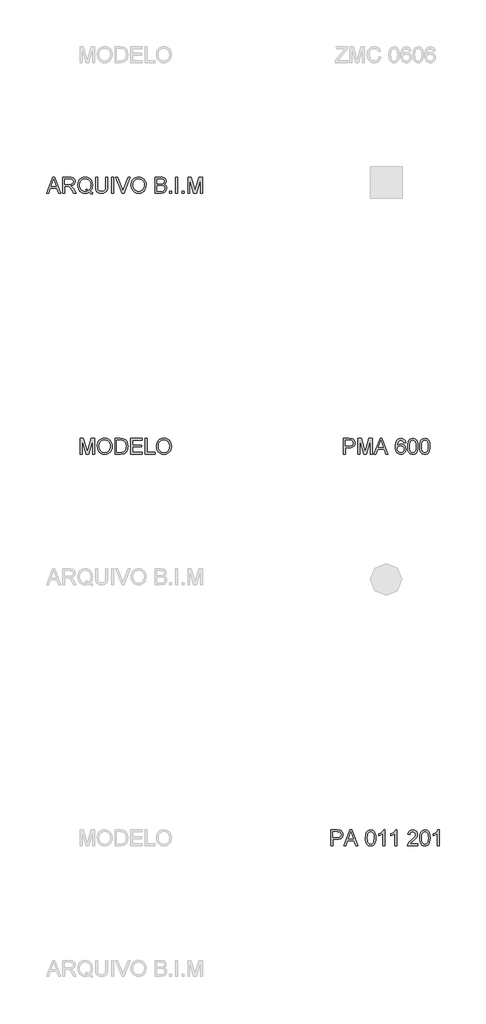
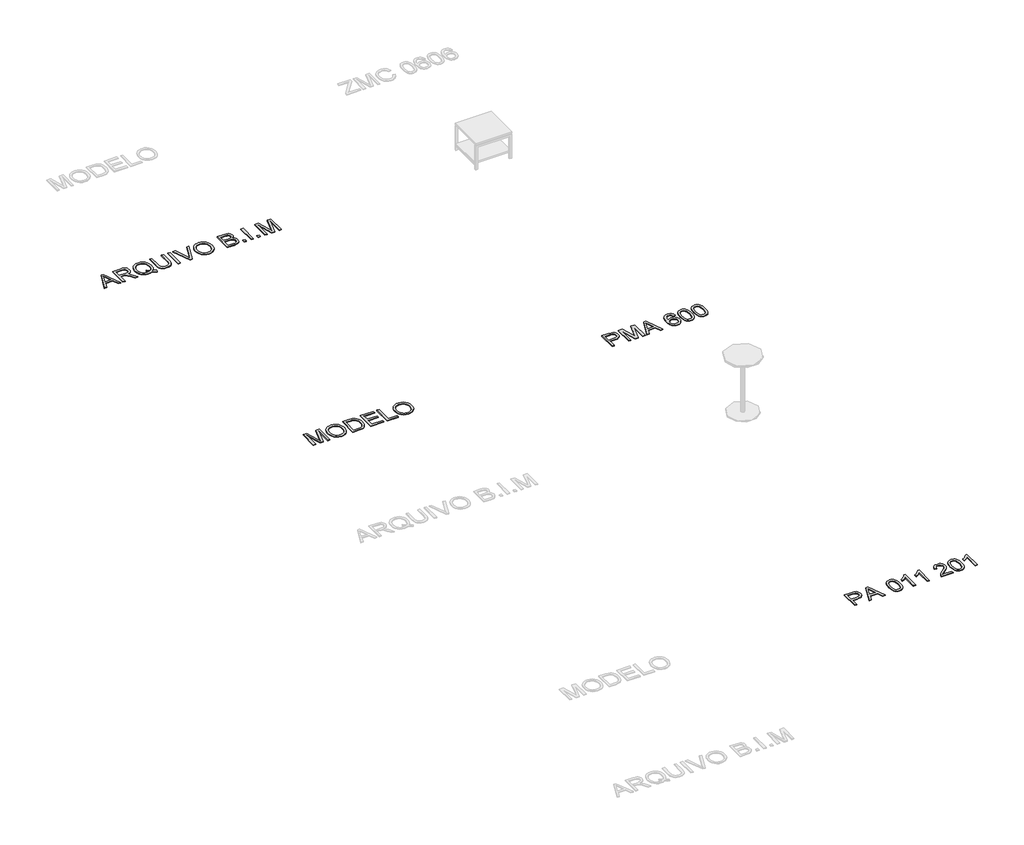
# One storey, part 2 of 5: 4 proxies.
"""IFC4 building model written with IfcOpenShell, lengths in millimetres."""

from ifc_helpers import new_model, si_unit, origin, origin_with_axes, place, context, project, spatial, polyline, outline, extrude, element, save

model = new_model("IFC4")

# Units and contexts
model_context = context("Model", 3, world=origin())
ifc_project = project(units=[si_unit("LENGTHUNIT", "METRE", prefix="MILLI")], contexts=[model_context])

# Site, building, storey
site = spatial("IfcSite", under=ifc_project)
building = spatial("IfcBuilding", under=site)
storey = spatial("IfcBuildingStorey", under=building, Name="Marelli - Linha PERFECTA - Planta Baixa", Elevation=0.0)

# Proxies
placement = place(None, origin())
element("IfcBuildingElementProxy", 1, Name="300mm Arial", ObjectType="300mm Arial", at=placement, inside=storey, context=model_context, shape_type="SweptSolid", body=[
    extrude(outline(polyline([(-4919.7880098, 8719.4336799), (-4919.7880098, 9020.8026104), (-4808.0990361, 9020.8026104), (-4763.0702799, 9017.9331308), (-4742.99312, 9012.5712507), (-4726.4660214, 9003.8432504), (-4713.1578902, 8991.3536567), (-4702.7376327, 8974.7069964), (-4696.0053922, 8955.0712949), (-4693.761312, 8933.6145775), (-4695.276526, 8915.1147117), (-4699.8221679, 8898.0955709), (-4707.3982377, 8882.5571551), (-4718.0047355, 8868.4994644), (-4732.5659647, 8856.8468022), (-4752.0062289, 8848.523472), (-4776.325528, 8843.529474), (-4805.5238621, 8841.8648079), (-4882.1168935, 8841.8648079), (-4882.1168935, 8719.4336799), (-4919.7880098, 8719.4336799)]), holes=[polyline([(-4882.1168935, 8879.5359242), (-4803.3165702, 8879.5359242), (-4769.912885, 8882.994015), (-4747.8399653, 8893.3682873), (-4735.5343125, 8910.0149475), (-4731.4324283, 8932.2902023), (-4733.8512524, 8949.2127741), (-4741.1077248, 8963.4865955), (-4752.3005345, 8974.2287498), (-4766.5283706, 8980.5563201), (-4804.1994869, 8983.1314941), (-4882.1168935, 8983.1314941), (-4882.1168935, 8879.5359242)])]), origin_with_axes(), (0.0, 0.0, 1.0), 10.0),
    extrude(outline(polyline([(-4641.9635271, 8719.4336799), (-4641.9635271, 9020.8026104), (-4577.1427195, 9020.8026104), (-4515.4856971, 8808.3875464), (-4503.0512857, 8764.0209777), (-4489.5868047, 8812.0663663), (-4428.9598519, 9020.8026104), (-4364.1390443, 9020.8026104), (-4364.1390443, 8719.4336799), (-4401.8101606, 8719.4336799), (-4401.8101606, 8983.1314941), (-4477.5202752, 8719.4336799), (-4528.5822962, 8719.4336799), (-4604.2924108, 8983.1314941), (-4604.2924108, 8719.4336799), (-4641.9635271, 8719.4336799)])), origin_with_axes(), (0.0, 0.0, 1.0), 10.0),
    extrude(outline(polyline([(-4333.3105331, 8719.4336799), (-4213.0131207, 9020.8026104), (-4180.9338107, 9020.8026104), (-4060.6363983, 8719.4336799), (-4100.4412302, 8719.4336799), (-4134.9485613, 8813.6114707), (-4259.0719465, 8813.6114707), (-4293.5057012, 8719.4336799), (-4333.3105331, 8719.4336799)]), holes=[polyline([(-4245.2395835, 8851.282587), (-4148.7073479, 8851.282587), (-4175.8570392, 8925.3740208), (-4196.9734657, 8983.1314941), (-4215.7354475, 8931.8487439), (-4245.2395835, 8851.282587)])]), origin_with_axes(), (0.0, 0.0, 1.0), 10.0),
    extrude(outline(polyline([(-3723.7300671, 8940.7514882), (-3761.4011834, 8936.0425987), (-3767.4712363, 8954.7126099), (-3775.6750048, 8967.4597211), (-3792.7631235, 8979.2135508), (-3813.4196975, 8983.1314941), (-3830.9308805, 8980.8506257), (-3847.4119939, 8974.0080206), (-3861.5662537, 8959.5962434), (-3873.1269454, 8939.7582068), (-3880.9352407, 8911.6980077), (-3883.8323114, 8872.6197427), (-3868.7215585, 8890.2504873), (-3850.6125672, 8902.6757017), (-3830.5170133, 8910.0425387), (-3809.446572, 8912.498151), (-3791.3467778, 8910.8196894), (-3774.6449352, 8905.7843046), (-3759.3410442, 8897.3919966), (-3745.4351048, 8885.6427654), (-3733.8790117, 8871.2355867), (-3725.6246594, 8854.8694365), (-3720.672048, 8836.5443146), (-3719.0211776, 8816.2602211), (-3722.1297804, 8789.2852738), (-3731.455589, 8764.2784951), (-3746.2260511, 8743.0700981), (-3765.6686146, 8727.4902956), (-3788.9003626, 8717.9161667), (-3815.0383783, 8714.7247904), (-3837.4952749, 8716.8401119), (-3857.7770691, 8723.1860763), (-3875.8837611, 8733.7626836), (-3891.8153507, 8748.5699339), (-3904.8038844, 8768.2332266), (-3914.0814085, 8793.377961), (-3919.6479229, 8824.0041371), (-3921.5034277, 8860.1117549), (-3919.4432885, 8900.5925699), (-3913.262871, 8935.1412878), (-3902.9621752, 8963.7579085), (-3888.541201, 8986.442432), (-3872.9108147, 9001.4750101), (-3854.7880279, 9012.2125658), (-3834.1728406, 9018.6550992), (-3811.0652528, 9020.8026104), (-3778.0110555, 9015.4867156), (-3751.5419459, 8999.5390311), (-3733.0006934, 8974.2103557), (-3723.7300671, 8940.7514882)]), holes=[polyline([(-3883.8323114, 8816.8488323), (-3881.6526106, 8800.1561867), (-3875.1135081, 8784.2176993), (-3864.9599651, 8770.514095), (-3851.9369424, 8760.5260988), (-3836.2191842, 8754.4284547), (-3817.9814343, 8752.3959067), (-3793.1218085, 8756.6081555), (-3773.5780775, 8769.2449021), (-3760.9137398, 8789.1105298), (-3756.6922939, 8815.0094223), (-3760.8585575, 8839.8690481), (-3773.3573483, 8858.8241679), (-3793.232173, 8870.826318), (-3819.5265387, 8874.8270347), (-3844.3493763, 8870.826318), (-3865.1071179, 8858.8241679), (-3879.151013, 8840.3289006), (-3883.8323114, 8816.8488323)])]), origin_with_axes(), (0.0, 0.0, 1.0), 10.0),
    extrude(outline(polyline([(-3686.0589508, 8867.690124), (-3683.2906388, 8915.9286506), (-3674.9857028, 8954.3999103), (-3661.2269161, 8983.6925141), (-3642.0970524, 9004.3950734), (-3617.4581558, 9016.7007261), (-3587.1722705, 9020.8026104), (-3563.9589166, 9018.3745892), (-3543.1735839, 9011.0905257), (-3525.7911596, 8999.2355284), (-3512.7865311, 8983.0947059), (-3502.9640818, 8962.8060138), (-3495.1281953, 8938.5074081), (-3489.9962415, 8907.6513057), (-3488.2855902, 8867.690124), (-3491.0263111, 8819.7275089), (-3499.2484737, 8781.3482197), (-3512.9244868, 8752.0280247), (-3532.0267594, 8731.242692), (-3556.7208384, 8718.8542658), (-3587.1722705, 8714.7247904), (-3607.920815, 8716.5182151), (-3626.3149148, 8721.8984893), (-3642.3545698, 8730.8656129), (-3656.03978, 8743.419586), (-3669.1731672, 8766.1133066), (-3678.5541581, 8794.3896364), (-3684.1827526, 8828.2485756), (-3686.0589508, 8867.690124)]), holes=[polyline([(-3648.3878345, 8867.7637004), (-3643.9732506, 8808.507108), (-3638.4550206, 8788.2391093), (-3630.7294987, 8774.211309), (-3611.0110238, 8757.8497573), (-3587.1722705, 8752.3959067), (-3563.3335172, 8757.8681514), (-3543.6150423, 8774.2848854), (-3535.8895204, 8788.3356784), (-3530.3712904, 8808.5990785), (-3525.9567065, 8867.7637004), (-3530.2241376, 8925.6867205), (-3535.5584266, 8945.8880406), (-3543.0264311, 8960.249234), (-3562.7081178, 8977.410929), (-3587.6137289, 8983.1314941), (-3611.1949648, 8978.0915107), (-3630.1408875, 8962.9715607), (-3638.1239268, 8947.3365759), (-3643.8260978, 8926.2569376), (-3648.3878345, 8867.7637004)])]), origin_with_axes(), (0.0, 0.0, 1.0), 10.0),
    extrude(outline(polyline([(-3455.3233634, 8867.690124), (-3452.5550514, 8915.9286506), (-3444.2501154, 8954.3999103), (-3430.4913288, 8983.6925141), (-3411.361465, 9004.3950734), (-3386.7225684, 9016.7007261), (-3356.4366831, 9020.8026104), (-3333.2233292, 9018.3745892), (-3312.4379965, 9011.0905257), (-3295.0555722, 8999.2355284), (-3282.0509437, 8983.0947059), (-3272.2284944, 8962.8060138), (-3264.3926079, 8938.5074081), (-3259.2606541, 8907.6513057), (-3257.5500028, 8867.690124), (-3260.2907237, 8819.7275089), (-3268.5128863, 8781.3482197), (-3282.1888994, 8752.0280247), (-3301.291172, 8731.242692), (-3325.985251, 8718.8542658), (-3356.4366831, 8714.7247904), (-3377.1852277, 8716.5182151), (-3395.5793274, 8721.8984893), (-3411.6189824, 8730.8656129), (-3425.3041926, 8743.419586), (-3438.4375799, 8766.1133066), (-3447.8185707, 8794.3896364), (-3453.4471653, 8828.2485756), (-3455.3233634, 8867.690124)]), holes=[polyline([(-3417.6522471, 8867.7637004), (-3413.2376632, 8808.507108), (-3407.7194333, 8788.2391093), (-3399.9939114, 8774.211309), (-3380.2754364, 8757.8497573), (-3356.4366831, 8752.3959067), (-3332.5979298, 8757.8681514), (-3312.8794549, 8774.2848854), (-3305.153933, 8788.3356784), (-3299.6357031, 8808.5990785), (-3295.2211191, 8867.7637004), (-3299.4885503, 8925.6867205), (-3304.8228392, 8945.8880406), (-3312.2908437, 8960.249234), (-3331.9725304, 8977.410929), (-3356.8781415, 8983.1314941), (-3380.4593774, 8978.0915107), (-3399.4053002, 8962.9715607), (-3407.3883395, 8947.3365759), (-3413.0905104, 8926.2569376), (-3417.6522471, 8867.7637004)])]), origin_with_axes(), (0.0, 0.0, 1.0), 10.0),
])
element("IfcBuildingElementProxy", 2, Name="300mm Arial", ObjectType="300mm Arial", at=placement, inside=storey, context=model_context, shape_type="SweptSolid", body=[
    extrude(outline(polyline([(-5152.878042, 1219.4336799), (-5152.878042, 1520.8026104), (-5041.1890682, 1520.8026104), (-4996.160312, 1517.9331308), (-4976.0831521, 1512.5712507), (-4959.5560535, 1503.8432504), (-4946.2479223, 1491.3536567), (-4935.8276648, 1474.7069964), (-4929.0954243, 1455.0712949), (-4926.8513441, 1433.6145775), (-4928.3665581, 1415.1147117), (-4932.9122, 1398.0955709), (-4940.4882698, 1382.5571551), (-4951.0947676, 1368.4994644), (-4965.6559968, 1356.8468022), (-4985.096261, 1348.523472), (-5009.4155602, 1343.529474), (-5038.6138943, 1341.8648079), (-5115.2069257, 1341.8648079), (-5115.2069257, 1219.4336799), (-5152.878042, 1219.4336799)]), holes=[polyline([(-5115.2069257, 1379.5359242), (-5036.4066023, 1379.5359242), (-5003.0029171, 1382.994015), (-4980.9299974, 1393.3682873), (-4968.6243447, 1410.0149475), (-4964.5224604, 1432.2902023), (-4966.9412846, 1449.2127741), (-4974.1977569, 1463.4865955), (-4985.3905666, 1474.2287498), (-4999.6184028, 1480.5563201), (-5037.2895191, 1483.1314941), (-5115.2069257, 1483.1314941), (-5115.2069257, 1379.5359242)])]), origin_with_axes(), (0.0, 0.0, 1.0), 10.0),
    extrude(outline(polyline([(-4910.1495016, 1219.4336799), (-4789.8520891, 1520.8026104), (-4757.7727792, 1520.8026104), (-4637.4753667, 1219.4336799), (-4677.2801986, 1219.4336799), (-4711.7875298, 1313.6114707), (-4835.9109149, 1313.6114707), (-4870.3446697, 1219.4336799), (-4910.1495016, 1219.4336799)]), holes=[polyline([(-4822.0785519, 1351.282587), (-4725.5463164, 1351.282587), (-4752.6960076, 1425.3740208), (-4773.8124341, 1483.1314941), (-4792.5744159, 1431.8487439), (-4822.0785519, 1351.282587)])]), origin_with_axes(), (0.0, 0.0, 1.0), 10.0),
    extrude(outline(polyline([(-4493.6335066, 1367.690124), (-4490.8651946, 1415.9286506), (-4482.5602586, 1454.3999103), (-4468.8014719, 1483.6925141), (-4449.6716082, 1504.3950734), (-4425.0327116, 1516.7007261), (-4394.7468263, 1520.8026104), (-4371.5334724, 1518.3745892), (-4350.7481397, 1511.0905257), (-4333.3657154, 1499.2355284), (-4320.3610869, 1483.0947059), (-4310.5386376, 1462.8060138), (-4302.7027511, 1438.5074081), (-4297.5707973, 1407.6513057), (-4295.860146, 1367.690124), (-4298.6008669, 1319.7275089), (-4306.8230295, 1281.3482197), (-4320.4990426, 1252.0280247), (-4339.6013152, 1231.242692), (-4364.2953942, 1218.8542658), (-4394.7468263, 1214.7247904), (-4415.4953708, 1216.5182151), (-4433.8894706, 1221.8984893), (-4449.9291256, 1230.8656129), (-4463.6143358, 1243.419586), (-4476.747723, 1266.1133066), (-4486.1287139, 1294.3896364), (-4491.7573084, 1328.2485756), (-4493.6335066, 1367.690124)]), holes=[polyline([(-4455.9623903, 1367.7637004), (-4451.5478064, 1308.507108), (-4446.0295764, 1288.2391093), (-4438.3040545, 1274.211309), (-4418.5855796, 1257.8497573), (-4394.7468263, 1252.3959067), (-4370.908073, 1257.8681514), (-4351.1895981, 1274.2848854), (-4343.4640762, 1288.3356784), (-4337.9458463, 1308.5990785), (-4333.5312623, 1367.7637004), (-4337.7986935, 1425.6867205), (-4343.1329824, 1445.8880406), (-4350.6009869, 1460.249234), (-4370.2826736, 1477.410929), (-4395.1882847, 1483.1314941), (-4418.7695206, 1478.0915107), (-4437.7154434, 1462.9715607), (-4445.6984826, 1447.3365759), (-4451.4006536, 1426.2569376), (-4455.9623903, 1367.7637004)])]), origin_with_axes(), (0.0, 0.0, 1.0), 10.0),
    extrude(outline(polyline([(-4121.6312331, 1219.4336799), (-4159.3023494, 1219.4336799), (-4159.3023494, 1454.2895457), (-4194.9869029, 1428.8688998), (-4234.644582, 1409.8494006), (-4234.644582, 1445.4603778), (-4205.0576726, 1461.5552151), (-4179.4254945, 1480.7034729), (-4159.219576, 1501.0657413), (-4145.9114448, 1520.8026104), (-4121.6312331, 1520.8026104), (-4121.6312331, 1219.4336799)])), origin_with_axes(), (0.0, 0.0, 1.0), 10.0),
    extrude(outline(polyline([(-3890.8956457, 1219.4336799), (-3928.566762, 1219.4336799), (-3928.566762, 1454.2895457), (-3964.2513156, 1428.8688998), (-4003.9089946, 1409.8494006), (-4003.9089946, 1445.4603778), (-3974.3220852, 1461.5552151), (-3948.6899072, 1480.7034729), (-3928.4839886, 1501.0657413), (-3915.1758574, 1520.8026104), (-3890.8956457, 1520.8026104), (-3890.8956457, 1219.4336799)])), origin_with_axes(), (0.0, 0.0, 1.0), 10.0),
    extrude(outline(polyline([(-3490.640035, 1257.1047962), (-3490.640035, 1219.4336799), (-3688.4133956, 1219.4336799), (-3684.3666936, 1245.4061488), (-3675.0776732, 1265.7040379), (-3661.4844335, 1285.3949217), (-3641.8211409, 1306.0055104), (-3614.3219617, 1329.0625145), (-3573.6710013, 1365.1701323), (-3549.280425, 1391.8231829), (-3537.0851369, 1413.4546442), (-3533.0200408, 1434.4974943), (-3536.8552106, 1453.3606436), (-3548.36072, 1469.0416137), (-3566.0466469, 1479.609024), (-3588.4230693, 1483.1314941), (-3611.9215317, 1479.6917974), (-3630.1776757, 1469.3727075), (-3641.9590966, 1452.9835646), (-3646.0333897, 1431.3337092), (-3683.704506, 1436.0425987), (-3674.5718355, 1472.4813103), (-3666.0254769, 1487.0172476), (-3654.8257694, 1499.0975727), (-3641.2302304, 1508.5935267), (-3625.4963773, 1515.376351), (-3587.6137289, 1520.8026104), (-3567.4239051, 1519.2942942), (-3549.4551689, 1514.7693457), (-3533.7075203, 1507.2277648), (-3520.1809592, 1496.6695515), (-3509.316944, 1483.8764551), (-3501.5569332, 1469.6302249), (-3496.9009267, 1453.9308607), (-3495.3489245, 1436.7783627), (-3497.0227876, 1418.761342), (-3502.0443768, 1401.057021), (-3510.9563182, 1383.0491973), (-3524.3012375, 1364.1216686), (-3545.5740139, 1341.5245171), (-3578.2695262, 1312.5078247), (-3621.6060252, 1276.2714482), (-3638.6021734, 1257.1047962), (-3490.640035, 1257.1047962)])), origin_with_axes(), (0.0, 0.0, 1.0), 10.0),
    extrude(outline(polyline([(-3452.9689187, 1367.690124), (-3450.2006066, 1415.9286506), (-3441.8956706, 1454.3999103), (-3428.136884, 1483.6925141), (-3409.0070202, 1504.3950734), (-3384.3681236, 1516.7007261), (-3354.0822384, 1520.8026104), (-3330.8688845, 1518.3745892), (-3310.0835517, 1511.0905257), (-3292.7011275, 1499.2355284), (-3279.6964989, 1483.0947059), (-3269.8740497, 1462.8060138), (-3262.0381632, 1438.5074081), (-3256.9062093, 1407.6513057), (-3255.1955581, 1367.690124), (-3257.9362789, 1319.7275089), (-3266.1584415, 1281.3482197), (-3279.8344547, 1252.0280247), (-3298.9367273, 1231.242692), (-3323.6308062, 1218.8542658), (-3354.0822384, 1214.7247904), (-3374.8307829, 1216.5182151), (-3393.2248826, 1221.8984893), (-3409.2645376, 1230.8656129), (-3422.9497479, 1243.419586), (-3436.0831351, 1266.1133066), (-3445.464126, 1294.3896364), (-3451.0927205, 1328.2485756), (-3452.9689187, 1367.690124)]), holes=[polyline([(-3415.2978024, 1367.7637004), (-3410.8832184, 1308.507108), (-3405.3649885, 1288.2391093), (-3397.6394666, 1274.211309), (-3377.9209916, 1257.8497573), (-3354.0822384, 1252.3959067), (-3330.2434851, 1257.8681514), (-3310.5250101, 1274.2848854), (-3302.7994882, 1288.3356784), (-3297.2812583, 1308.5990785), (-3292.8666744, 1367.7637004), (-3297.1341055, 1425.6867205), (-3302.4683944, 1445.8880406), (-3309.9363989, 1460.249234), (-3329.6180857, 1477.410929), (-3354.5236968, 1483.1314941), (-3378.1049326, 1478.0915107), (-3397.0508554, 1462.9715607), (-3405.0338947, 1447.3365759), (-3410.7360656, 1426.2569376), (-3415.2978024, 1367.7637004)])]), origin_with_axes(), (0.0, 0.0, 1.0), 10.0),
    extrude(outline(polyline([(-3080.9666451, 1219.4336799), (-3118.6377614, 1219.4336799), (-3118.6377614, 1454.2895457), (-3154.322315, 1428.8688998), (-3193.9799941, 1409.8494006), (-3193.9799941, 1445.4603778), (-3164.3930846, 1461.5552151), (-3138.7609066, 1480.7034729), (-3118.554988, 1501.0657413), (-3105.2468568, 1520.8026104), (-3080.9666451, 1520.8026104), (-3080.9666451, 1219.4336799)])), origin_with_axes(), (0.0, 0.0, 1.0), 10.0),
])
element("IfcBuildingElementProxy", 3, Name="300mm Arial", ObjectType="300mm Arial", at=placement, inside=storey, context=model_context, shape_type="SweptSolid", body=[
    extrude(outline(polyline([(-10609.419598, 13719.4336799), (-10489.1221856, 14020.8026104), (-10457.0428756, 14020.8026104), (-10336.7454632, 13719.4336799), (-10376.550295, 13719.4336799), (-10411.0576262, 13813.6114707), (-10535.1810114, 13813.6114707), (-10569.6147661, 13719.4336799), (-10609.419598, 13719.4336799)]), holes=[polyline([(-10521.3486483, 13851.282587), (-10424.8164128, 13851.282587), (-10451.9661041, 13925.3740208), (-10473.0825306, 13983.1314941), (-10491.8445123, 13931.8487439), (-10521.3486483, 13851.282587)])]), origin_with_axes(), (0.0, 0.0, 1.0), 10.0),
    extrude(outline(polyline([(-10296.4991729, 13719.4336799), (-10296.4991729, 14020.8026104), (-10166.6368286, 14020.8026104), (-10131.7340243, 14018.7700624), (-10106.3409696, 14012.6724183), (-10087.7813229, 14001.4152292), (-10073.3787428, 13983.9040463), (-10064.1357077, 13962.1898115), (-10061.054696, 13938.3234671), (-10066.1590587, 13908.6353901), (-10081.4721467, 13884.0240846), (-10093.0719259, 13873.9947017), (-10107.4538126, 13865.9794727), (-10144.5639089, 13855.9914765), (-10123.1531768, 13839.8782452), (-10092.6189712, 13801.1034829), (-10042.3662906, 13719.4336799), (-10086.144248, 13719.4336799), (-10125.3604687, 13781.9000427), (-10153.6873824, 13823.249979), (-10173.5897983, 13842.7845129), (-10191.5056515, 13849.9582118), (-10213.357842, 13851.282587), (-10258.8280566, 13851.282587), (-10258.8280566, 13719.4336799), (-10296.4991729, 13719.4336799)]), holes=[polyline([(-10258.8280566, 13888.9537033), (-10174.5095033, 13888.9537033), (-10150.293671, 13890.2872755), (-10131.5040981, 13894.2879922), (-10117.3590353, 13901.2225678), (-10107.0767336, 13911.3577168), (-10100.8135426, 13923.6173843), (-10098.7258123, 13936.9255155), (-10102.7081349, 13955.3012211), (-10114.6551027, 13970.1084714), (-10135.2105092, 13979.8757384), (-10165.0181478, 13983.1314941), (-10258.8280566, 13983.1314941), (-10258.8280566, 13888.9537033)])]), origin_with_axes(), (0.0, 0.0, 1.0), 10.0),
    extrude(outline(polyline([(-9768.7356626, 13755.5596919), (-9744.4002686, 13736.963257), (-9722.0146492, 13724.1425695), (-9732.1681923, 13696.5514198), (-9763.2358268, 13710.9539999), (-9794.1930967, 13731.794515), (-9829.0499157, 13718.9922215), (-9867.4016137, 13714.7247904), (-9905.9372527, 13719.6452121), (-9940.7572836, 13734.4064771), (-9969.9211287, 13758.0796835), (-9991.4882107, 13789.7359292), (-10004.814736, 13827.6369718), (-10009.2569111, 13870.0445688), (-10004.823933, 13912.488954), (-9991.5249989, 13950.9418195), (-9970.0406904, 13983.0487206), (-9941.0515892, 14006.4552126), (-9906.360317, 14020.7474281), (-9867.7694957, 14025.5114999), (-9828.8751718, 14020.6370635), (-9794.0091557, 14006.0137542), (-9765.0660397, 13982.6164593), (-9743.9404161, 13951.4200661), (-9731.0277581, 13914.0800436), (-9726.7235388, 13872.2518607), (-9729.3355009, 13837.4686181), (-9737.1713874, 13806.4009836), (-9750.2863806, 13779.0857454), (-9768.7356626, 13755.5596919)]), holes=[polyline([(-9857.0273415, 13805.6652196), (-9825.3527017, 13793.6906607), (-9799.784903, 13777.0440004), (-9784.3016695, 13794.5183951), (-9773.2422171, 13815.8923391), (-9766.6065456, 13841.1658321), (-9764.3946551, 13870.3388744), (-9767.521652, 13903.4942392), (-9776.9026429, 13932.1798377), (-9792.3077015, 13955.6691031), (-9813.5069014, 13973.2354684), (-9839.065503, 13984.1891548), (-9867.5487665, 13987.8403836), (-9889.033075, 13985.9940758), (-9908.6043972, 13980.4551526), (-9926.2627329, 13971.2236137), (-9942.0080823, 13958.2994594), (-9954.9483315, 13941.7102807), (-9964.1913666, 13921.4836687), (-9969.7371877, 13897.6196236), (-9971.5857948, 13870.1181452), (-9969.7578811, 13843.3340366), (-9964.2741401, 13819.8562676), (-9955.1345718, 13799.6848379), (-9942.3391761, 13782.8197477), (-9926.7018921, 13769.5093173), (-9909.0366585, 13760.001867), (-9889.3434755, 13754.2973968), (-9867.6223429, 13752.3959067), (-9846.7082515, 13754.3272872), (-9827.081747, 13760.1214286), (-9846.3771577, 13770.146213), (-9866.7394261, 13776.8232712), (-9857.0273415, 13805.6652196)])]), origin_with_axes(), (0.0, 0.0, 1.0), 10.0),
    extrude(outline(polyline([(-9472.4435037, 14020.8026104), (-9434.7723874, 14020.8026104), (-9434.7723874, 13846.9415795), (-9437.3291673, 13806.2262396), (-9444.9995069, 13774.8734966), (-9459.3285106, 13750.6852554), (-9481.8612828, 13731.4634212), (-9512.6530058, 13718.9094481), (-9551.7588619, 13714.7247904), (-9590.0093923, 13718.3668221), (-9620.5895832, 13729.2929174), (-9643.5086315, 13747.1259971), (-9658.7757343, 13771.4889822), (-9667.3565818, 13804.1661005), (-9670.2168643, 13846.9415795), (-9670.2168643, 14020.8026104), (-9632.545748, 14020.8026104), (-9632.545748, 13848.2659546), (-9630.6879439, 13814.411614), (-9625.1145317, 13790.8395752), (-9615.0161709, 13774.5148117), (-9599.5835212, 13762.402297), (-9579.4603761, 13754.8975043), (-9555.290529, 13752.3959067), (-9516.9756192, 13757.3439195), (-9502.6328199, 13763.5289356), (-9491.499791, 13772.187958), (-9483.1626653, 13784.3648521), (-9477.2075755, 13801.1034829), (-9472.4435037, 13848.2659546), (-9472.4435037, 14020.8026104)])), origin_with_axes(), (0.0, 0.0, 1.0), 10.0),
    extrude(outline(polyline([(-9364.1390443, 13719.4336799), (-9364.1390443, 14020.8026104), (-9326.467928, 14020.8026104), (-9326.467928, 13719.4336799), (-9364.1390443, 13719.4336799)])), origin_with_axes(), (0.0, 0.0, 1.0), 10.0),
    extrude(outline(polyline([(-9162.0982526, 13719.4336799), (-9282.027783, 14020.8026104), (-9241.7079163, 14020.8026104), (-9161.436065, 13803.6786568), (-9145.1756808, 13754.7503515), (-9129.1360258, 13803.6786568), (-9048.6434453, 14020.8026104), (-9008.3235786, 14020.8026104), (-9123.1763375, 13719.4336799), (-9162.0982526, 13719.4336799)])), origin_with_axes(), (0.0, 0.0, 1.0), 10.0),
    extrude(outline(polyline([(-8987.4278813, 13866.1450196), (-8984.9170866, 13901.4938808), (-8977.3847028, 13932.786843), (-8964.8307297, 13960.0239063), (-8947.2551674, 13983.2050705), (-8925.711078, 14001.7141334), (-8901.2515239, 14014.9348926), (-8873.8765049, 14022.8673481), (-8843.5860211, 14025.5114999), (-8804.0571008, 14020.545093), (-8768.6116705, 14005.6458722), (-8739.1811109, 13981.8623012), (-8717.6968024, 13950.2428437), (-8704.5634152, 13912.31421), (-8700.1856194, 13869.6031104), (-8704.7933414, 13826.3217936), (-8718.6165074, 13787.859731), (-8740.8917622, 13756.1850913), (-8770.8557507, 13733.266043), (-8805.9976783, 13719.3601035), (-8843.8067503, 13714.7247904), (-8883.942676, 13719.8475472), (-8919.5904413, 13735.2158175), (-8948.9474246, 13759.4408469), (-8970.2110039, 13791.1338808), (-8983.1236619, 13827.6001836), (-8987.4278813, 13866.1450196)]), holes=[polyline([(-8949.7567649, 13865.7771376), (-8947.873669, 13840.8025487), (-8942.2243811, 13818.6330599), (-8932.8089013, 13799.2686714), (-8919.6272295, 13782.7093831), (-8903.6036694, 13769.4472372), (-8885.6625243, 13759.9742758), (-8865.8037944, 13754.290499), (-8844.0274795, 13752.3959067), (-8821.8786842, 13754.3088931), (-8801.7854294, 13760.0478522), (-8783.7477154, 13769.6127841), (-8767.7655419, 13783.0036887), (-8754.6804392, 13799.9124649), (-8745.3339373, 13820.0310115), (-8739.7260361, 13843.3593285), (-8737.8567357, 13869.897416), (-8741.0573091, 13903.2459188), (-8750.6590292, 13932.0694731), (-8766.4135756, 13955.641512), (-8788.0726281, 13973.2354684), (-8814.2014468, 13984.1891548), (-8843.3652919, 13987.8403836), (-8864.3851494, 13986.0814478), (-8883.8874937, 13980.8046405), (-8901.8723248, 13972.0099615), (-8918.3396426, 13959.697411), (-8932.0846336, 13943.2737792), (-8941.9024844, 13922.1458563), (-8947.7931948, 13896.3136425), (-8949.7567649, 13865.7771376)])]), origin_with_axes(), (0.0, 0.0, 1.0), 10.0),
    extrude(outline(polyline([(-8530.665596, 13719.4336799), (-8530.665596, 14020.8026104), (-8415.6656844, 14020.8026104), (-8384.0370298, 14018.5861214), (-8359.3429509, 14011.9366543), (-8340.4154222, 14000.6886623), (-8326.0864185, 13984.6765985), (-8317.0641126, 13965.8410403), (-8314.0566773, 13946.1225654), (-8316.585866, 13927.9767859), (-8324.1734321, 13910.9162584), (-8336.874558, 13895.9894465), (-8354.7444259, 13884.2448138), (-8333.3980732, 13873.0979893), (-8317.6251326, 13856.1386293), (-8307.8854568, 13834.4887739), (-8304.6388982, 13809.2704632), (-8306.8553872, 13788.2552042), (-8313.5048543, 13768.7666555), (-8323.4284711, 13752.1935716), (-8335.4674094, 13739.9247071), (-8350.2102804, 13731.0403569), (-8368.2456952, 13724.6208161), (-8416.5486011, 13719.4336799), (-8530.665596, 13719.4336799)]), holes=[polyline([(-8492.9944797, 13898.3714824), (-8424.2005466, 13898.3714824), (-8384.0278328, 13901.6088439), (-8369.9655435, 13907.1914532), (-8359.8579857, 13915.5515716), (-8353.7603416, 13926.5604403), (-8351.7277936, 13940.0893006), (-8353.6223859, 13953.2226879), (-8359.3061627, 13964.6638179), (-8368.5216067, 13973.5941533), (-8381.0112004, 13979.1951567), (-8429.424471, 13983.1314941), (-8492.9944797, 13983.1314941), (-8492.9944797, 13898.3714824)]), polyline([(-8492.9944797, 13757.1047962), (-8415.7392607, 13757.1047962), (-8387.7802291, 13758.5763242), (-8364.1254168, 13766.7800927), (-8348.4536438, 13783.5187235), (-8343.8459218, 13795.3461296), (-8342.3100145, 13808.9025812), (-8344.1126363, 13824.6479306), (-8349.5205016, 13838.185988), (-8358.9658718, 13848.7717924), (-8372.8810083, 13855.6603827), (-8392.5902862, 13859.4403702), (-8419.4180807, 13860.7003661), (-8492.9944797, 13860.7003661), (-8492.9944797, 13757.1047962)])]), origin_with_axes(), (0.0, 0.0, 1.0), 10.0),
    extrude(outline(polyline([(-8248.1322237, 13719.4336799), (-8248.1322237, 13757.1047962), (-8210.4611074, 13757.1047962), (-8210.4611074, 13719.4336799), (-8248.1322237, 13719.4336799)])), origin_with_axes(), (0.0, 0.0, 1.0), 10.0),
    extrude(outline(polyline([(-8130.4099853, 13719.4336799), (-8130.4099853, 14020.8026104), (-8092.738869, 14020.8026104), (-8092.738869, 13719.4336799), (-8130.4099853, 13719.4336799)])), origin_with_axes(), (0.0, 0.0, 1.0), 10.0),
    extrude(outline(polyline([(-8012.6877468, 13719.4336799), (-8012.6877468, 13757.1047962), (-7975.0166305, 13757.1047962), (-7975.0166305, 13719.4336799), (-8012.6877468, 13719.4336799)])), origin_with_axes(), (0.0, 0.0, 1.0), 10.0),
    extrude(outline(polyline([(-7899.6743979, 13719.4336799), (-7899.6743979, 14020.8026104), (-7834.8535904, 14020.8026104), (-7773.196568, 13808.3875464), (-7760.7621565, 13764.0209777), (-7747.2976755, 13812.0663663), (-7686.6707227, 14020.8026104), (-7621.8499152, 14020.8026104), (-7621.8499152, 13719.4336799), (-7659.5210315, 13719.4336799), (-7659.5210315, 13983.1314941), (-7735.2311461, 13719.4336799), (-7786.293167, 13719.4336799), (-7862.0032816, 13983.1314941), (-7862.0032816, 13719.4336799), (-7899.6743979, 13719.4336799)])), origin_with_axes(), (0.0, 0.0, 1.0), 10.0),
])
element("IfcBuildingElementProxy", 4, Name="300mm Arial", ObjectType="300mm Arial", at=placement, inside=storey, context=model_context, shape_type="SweptSolid", body=[
    extrude(outline(polyline([(-9966.8769052, 8719.4336799), (-9966.8769052, 9020.8026104), (-9902.0560977, 9020.8026104), (-9840.3990753, 8808.3875464), (-9827.9646638, 8764.0209777), (-9814.5001828, 8812.0663663), (-9753.87323, 9020.8026104), (-9689.0524225, 9020.8026104), (-9689.0524225, 8719.4336799), (-9726.7235388, 8719.4336799), (-9726.7235388, 8983.1314941), (-9802.4336534, 8719.4336799), (-9853.4956743, 8719.4336799), (-9929.2057889, 8983.1314941), (-9929.2057889, 8719.4336799), (-9966.8769052, 8719.4336799)])), origin_with_axes(), (0.0, 0.0, 1.0), 10.0),
    extrude(outline(polyline([(-9637.2546375, 8866.1450196), (-9634.7438429, 8901.4938808), (-9627.2114591, 8932.786843), (-9614.657486, 8960.0239063), (-9597.0819237, 8983.2050705), (-9575.5378343, 9001.7141334), (-9551.0782802, 9014.9348926), (-9523.7032612, 9022.8673481), (-9493.4127774, 9025.5114999), (-9453.883857, 9020.545093), (-9418.4384268, 9005.6458722), (-9389.0078672, 8981.8623012), (-9367.5235587, 8950.2428437), (-9354.3901714, 8912.31421), (-9350.0123757, 8869.6031104), (-9354.6200977, 8826.3217936), (-9368.4432637, 8787.859731), (-9390.7185185, 8756.1850913), (-9420.682507, 8733.266043), (-9455.8244346, 8719.3601035), (-9493.6335066, 8714.7247904), (-9533.7694323, 8719.8475472), (-9569.4171976, 8735.2158175), (-9598.7741808, 8759.4408469), (-9620.0377602, 8791.1338808), (-9632.9504182, 8827.6001836), (-9637.2546375, 8866.1450196)]), holes=[polyline([(-9599.5835212, 8865.7771376), (-9597.7004253, 8840.8025487), (-9592.0511374, 8818.6330599), (-9582.6356576, 8799.2686714), (-9569.4539858, 8782.7093831), (-9553.4304257, 8769.4472372), (-9535.4892806, 8759.9742758), (-9515.6305507, 8754.290499), (-9493.8542358, 8752.3959067), (-9471.7054404, 8754.3088931), (-9451.6121857, 8760.0478522), (-9433.5744716, 8769.6127841), (-9417.5922982, 8783.0036887), (-9404.5071955, 8799.9124649), (-9395.1606936, 8820.0310115), (-9389.5527924, 8843.3593285), (-9387.683492, 8869.897416), (-9390.8840654, 8903.2459188), (-9400.4857854, 8932.0694731), (-9416.2403319, 8955.641512), (-9437.8993843, 8973.2354684), (-9464.0282031, 8984.1891548), (-9493.1920482, 8987.8403836), (-9514.2119057, 8986.0814478), (-9533.71425, 8980.8046405), (-9551.699081, 8972.0099615), (-9568.1663988, 8959.697411), (-9581.9113899, 8943.2737792), (-9591.7292406, 8922.1458563), (-9597.6199511, 8896.3136425), (-9599.5835212, 8865.7771376)])]), origin_with_axes(), (0.0, 0.0, 1.0), 10.0),
    extrude(outline(polyline([(-9298.2145908, 8719.4336799), (-9298.2145908, 9020.8026104), (-9194.2511389, 9020.8026104), (-9140.4667912, 9016.4616028), (-9116.444097, 9008.0922874), (-9096.173799, 8994.9037179), (-9075.333284, 8971.9478814), (-9060.4892455, 8943.4002386), (-9051.6048953, 8909.8126124), (-9048.6434453, 8871.7368259), (-9050.6484021, 8839.3908015), (-9056.6632727, 8810.9259321), (-9065.8235344, 8786.6917057), (-9077.2646645, 8767.0376101), (-9090.4348399, 8751.522187), (-9104.7822377, 8739.7039779), (-9121.254154, 8730.9391893), (-9140.797885, 8724.5840279), (-9189.2479438, 8719.4336799), (-9298.2145908, 8719.4336799)]), holes=[polyline([(-9260.5434745, 8757.1047962), (-9193.8832569, 8757.1047962), (-9166.3105014, 8758.4659596), (-9145.39641, 8762.5494498), (-9129.6142724, 8769.1161434), (-9117.4373783, 8777.9269172), (-9104.3499764, 8794.2332866), (-9094.51833, 8815.3405161), (-9088.3655037, 8841.3405761), (-9086.3145616, 8872.3254371), (-9090.3336724, 8913.3810678), (-9102.3910047, 8943.6945442), (-9120.2056904, 8964.5166651), (-9141.4968608, 8977.0982294), (-9163.1651103, 8981.6231779), (-9194.9133265, 8983.1314941), (-9260.5434745, 8983.1314941), (-9260.5434745, 8757.1047962)])]), origin_with_axes(), (0.0, 0.0, 1.0), 10.0),
    extrude(outline(polyline([(-8996.8456603, 8719.4336799), (-8996.8456603, 9020.8026104), (-8780.2367416, 9020.8026104), (-8780.2367416, 8983.1314941), (-8959.174544, 8983.1314941), (-8959.174544, 8893.6625928), (-8789.6545206, 8893.6625928), (-8789.6545206, 8855.9914765), (-8959.174544, 8855.9914765), (-8959.174544, 8757.1047962), (-8775.527852, 8757.1047962), (-8775.527852, 8719.4336799), (-8996.8456603, 8719.4336799)])), origin_with_axes(), (0.0, 0.0, 1.0), 10.0),
    extrude(outline(polyline([(-8719.0211776, 8719.4336799), (-8719.0211776, 9020.8026104), (-8681.3500613, 9020.8026104), (-8681.3500613, 8757.1047962), (-8530.665596, 8757.1047962), (-8530.665596, 8719.4336799), (-8719.0211776, 8719.4336799)])), origin_with_axes(), (0.0, 0.0, 1.0), 10.0),
    extrude(outline(polyline([(-8502.4122588, 8866.1450196), (-8499.9014642, 8901.4938808), (-8492.3690803, 8932.786843), (-8479.8151073, 8960.0239063), (-8462.2395449, 8983.2050705), (-8440.6954556, 9001.7141334), (-8416.2359014, 9014.9348926), (-8388.8608825, 9022.8673481), (-8358.5703987, 9025.5114999), (-8319.0414783, 9020.545093), (-8283.5960481, 9005.6458722), (-8254.1654885, 8981.8623012), (-8232.6811799, 8950.2428437), (-8219.5477927, 8912.31421), (-8215.169997, 8869.6031104), (-8219.777719, 8826.3217936), (-8233.6008849, 8787.859731), (-8255.8761397, 8756.1850913), (-8285.8401283, 8733.266043), (-8320.9820558, 8719.3601035), (-8358.7911279, 8714.7247904), (-8398.9270536, 8719.8475472), (-8434.5748189, 8735.2158175), (-8463.9318021, 8759.4408469), (-8485.1953814, 8791.1338808), (-8498.1080395, 8827.6001836), (-8502.4122588, 8866.1450196)]), holes=[polyline([(-8464.7411425, 8865.7771376), (-8462.8580465, 8840.8025487), (-8457.2087587, 8818.6330599), (-8447.7932788, 8799.2686714), (-8434.6116071, 8782.7093831), (-8418.5880469, 8769.4472372), (-8400.6469019, 8759.9742758), (-8380.7881719, 8754.290499), (-8359.0118571, 8752.3959067), (-8336.8630617, 8754.3088931), (-8316.769807, 8760.0478522), (-8298.7320929, 8769.6127841), (-8282.7499195, 8783.0036887), (-8269.6648168, 8799.9124649), (-8260.3183148, 8820.0310115), (-8254.7104137, 8843.3593285), (-8252.8411133, 8869.897416), (-8256.0416866, 8903.2459188), (-8265.6434067, 8932.0694731), (-8281.3979532, 8955.641512), (-8303.0570056, 8973.2354684), (-8329.1858243, 8984.1891548), (-8358.3496695, 8987.8403836), (-8379.369527, 8986.0814478), (-8398.8718713, 8980.8046405), (-8416.8567023, 8972.0099615), (-8433.3240201, 8959.697411), (-8447.0690112, 8943.2737792), (-8456.8868619, 8922.1458563), (-8462.7775724, 8896.3136425), (-8464.7411425, 8865.7771376)])]), origin_with_axes(), (0.0, 0.0, 1.0), 10.0),
])

save(model, "model.ifc")
